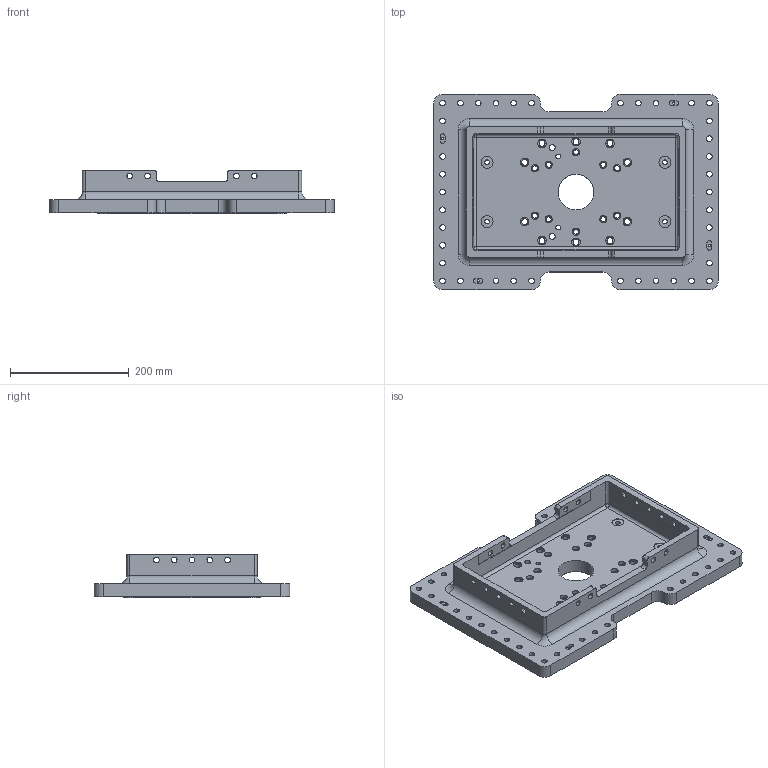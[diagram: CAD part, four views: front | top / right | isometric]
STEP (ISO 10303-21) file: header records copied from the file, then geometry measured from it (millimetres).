
FILE_DESCRIPTION(('STEP AP214'),'1');
FILE_NAME('EGT016_1_1706357_H-RAHMEN_300X450_SW80.CATPart.stp','2015-09-18T08:05:31',('3D-Tool'),(' '),'Spatial InterOp 3D',' ',' ');
FILE_SCHEMA(('automotive_design'));
Length unit declared in the file: millimetre
Products named in the file (21): EGT016_1_1706357_H-RAHMEN_300X450_SW80|EGT016_H-RAHMEN_300X450_SW80|Bohrbearbeitung; 1; 2; 3; 4; 5; 6; 7; 8; 9; 10; 11; 12; 13; 14; 15; 16; 17; 18; 19; 20
Bounding box: 480 x 330 x 74 mm (x, y, z)
Volume: 3865068.1 mm3; surface area: 524258.4 mm2
Topology: 21 solids, 21 shells, 975 faces, 2553 edges, 1664 vertices
Faces by surface type: cylinder 702, plane 138, cone 127, torus 4, sphere 4
Entity records: 39541 total; most frequent: DIRECTION 6101, CARTESIAN_POINT 5325, ORIENTED_EDGE 5098, AXIS2_PLACEMENT_3D 2568, EDGE_CURVE 2549, VERTEX_POINT 1664, CIRCLE 1572, EDGE_LOOP 1241
